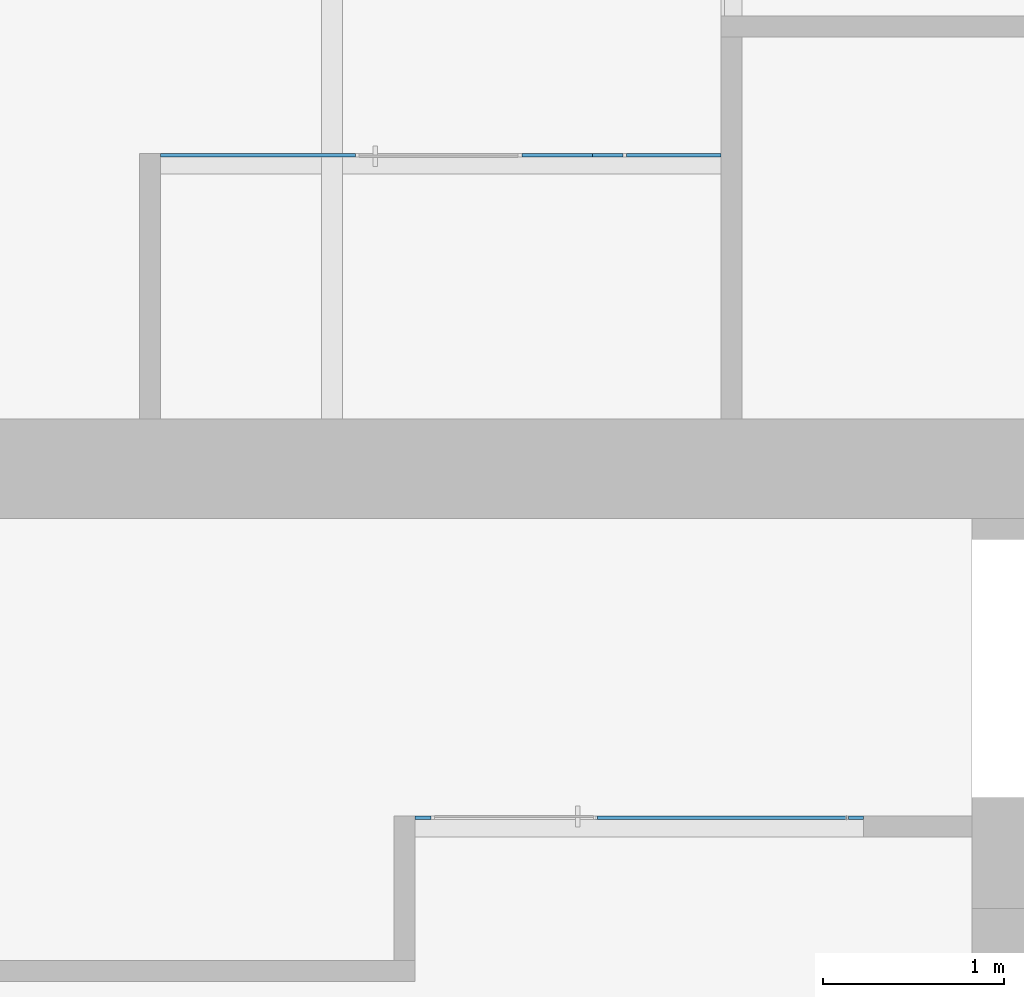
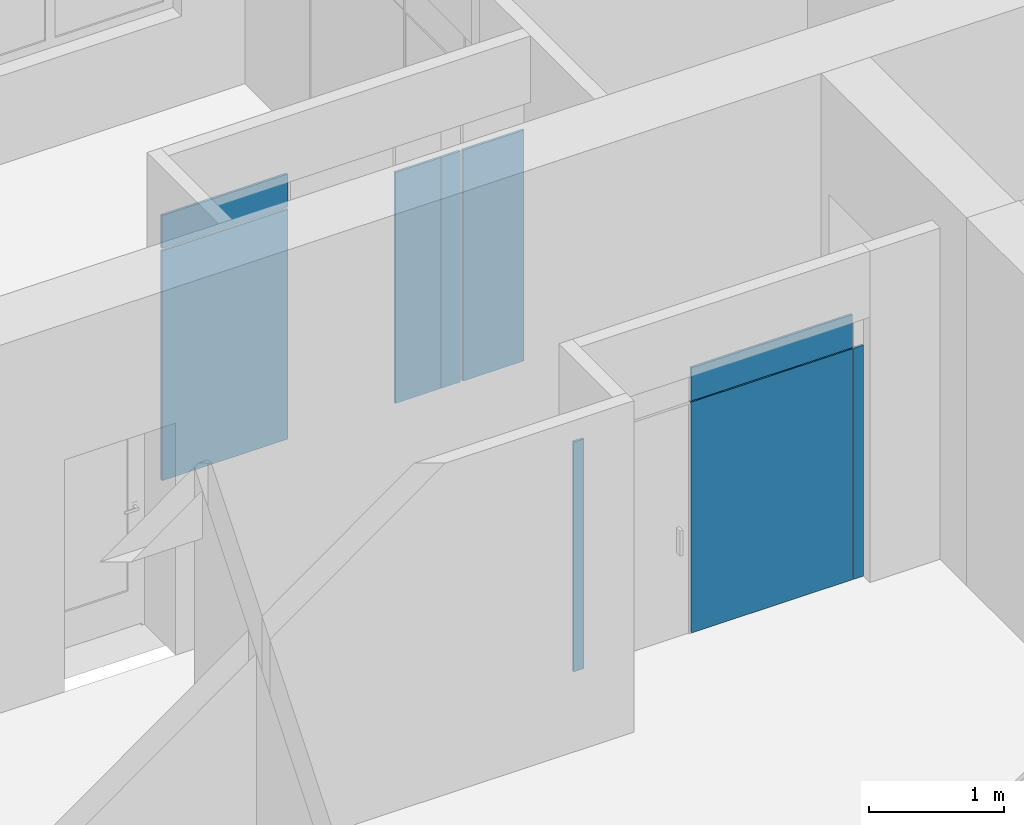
# One storey, part 29 of 73: 10 plates, 2 elements without a shape of their own.
"""IFC2X3 building model written with IfcOpenShell, lengths in millimetres."""

from ifc_helpers import new_model, entity, si_unit, converted_unit, derived_unit, direction, frame, origin, origin_2d_with_axis, place, context, subcontext, project, spatial, rectangle, extrude, source, transform, mapped, material, layer, layer_set, layer_usage, type_object, type_shapes, element, aggregate, save


model = new_model("IFC2X3")

# Units and contexts
model_context = context("Model", 3, precision=0.01, world=origin(), true_north=direction((6.12303176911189e-17, 1.0)))
body_context = subcontext(model_context, "Body", "Model", "MODEL_VIEW")
ifc_project = project(units=[si_unit("LENGTHUNIT", "METRE", prefix="MILLI"), si_unit("AREAUNIT", "SQUARE_METRE"), si_unit("VOLUMEUNIT", "CUBIC_METRE"), converted_unit("PLANEANGLEUNIT", "DEGREE", entity("IfcRatioMeasure", 0.0174532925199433), si_unit("PLANEANGLEUNIT", "RADIAN"), dimensions=[0, 0, 0, 0, 0, 0, 0]), si_unit("MASSUNIT", "GRAM", prefix="KILO"), derived_unit("MASSDENSITYUNIT", [(si_unit("MASSUNIT", "GRAM", prefix="KILO"), 1), (si_unit("LENGTHUNIT", "METRE"), -3)]), si_unit("TIMEUNIT", "SECOND"), si_unit("FREQUENCYUNIT", "HERTZ"), si_unit("THERMODYNAMICTEMPERATUREUNIT", "DEGREE_CELSIUS"), derived_unit("THERMALTRANSMITTANCEUNIT", [(si_unit("MASSUNIT", "GRAM", prefix="KILO"), 1), (si_unit("THERMODYNAMICTEMPERATUREUNIT", "KELVIN"), -1), (si_unit("TIMEUNIT", "SECOND"), -3)]), derived_unit("VOLUMETRICFLOWRATEUNIT", [(si_unit("LENGTHUNIT", "METRE"), 3), (si_unit("TIMEUNIT", "SECOND"), -1)]), si_unit("ELECTRICCURRENTUNIT", "AMPERE"), si_unit("ELECTRICVOLTAGEUNIT", "VOLT"), si_unit("POWERUNIT", "WATT"), si_unit("FORCEUNIT", "NEWTON", prefix="KILO"), si_unit("ILLUMINANCEUNIT", "LUX"), si_unit("LUMINOUSFLUXUNIT", "LUMEN"), si_unit("LUMINOUSINTENSITYUNIT", "CANDELA"), derived_unit("USERDEFINED", [(si_unit("MASSUNIT", "GRAM", prefix="KILO"), -1), (si_unit("LENGTHUNIT", "METRE"), -2), (si_unit("TIMEUNIT", "SECOND"), 3), (si_unit("LUMINOUSFLUXUNIT", "LUMEN"), 1)]), derived_unit("LINEARVELOCITYUNIT", [(si_unit("LENGTHUNIT", "METRE"), 1), (si_unit("TIMEUNIT", "SECOND"), -1)]), si_unit("PRESSUREUNIT", "PASCAL"), derived_unit("USERDEFINED", [(si_unit("LENGTHUNIT", "METRE"), -2), (si_unit("MASSUNIT", "GRAM", prefix="KILO"), 1), (si_unit("TIMEUNIT", "SECOND"), -2)])], contexts=[model_context])

# Site, building, storey
site_placement = place(None, frame((-151.875543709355, 2715.0, 0.0)))
site = spatial("IfcSite", under=ifc_project, at=site_placement, Name="Surface", CompositionType="ELEMENT")
building_placement = place(site_placement, origin())
building = spatial("IfcBuilding", under=site, at=building_placement, CompositionType="ELEMENT")
storey_placement = place(building_placement, frame((0.0, 0.0, 6730.43000000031)))
storey = spatial("IfcBuildingStorey", under=building, at=storey_placement, Name="3 korrus", CompositionType="ELEMENT", Elevation=6730.43000000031)

# Curtain wall, plates
curtain_wall_type_1 = type_object("IfcCurtainWallType", Name="Curtain Wall:Klaassein KLS-20", PredefinedType="NOTDEFINED")
curtain_wall_1_placement = place(storey_placement, frame((0.0, 0.0, -6730.43000000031)))
curtain_wall_1 = element("IfcCurtainWall", 1, at=curtain_wall_1_placement, inside=storey, type_object=curtain_wall_type_1, Name="Curtain Wall:Klaassein KLS-20", ObjectType="Curtain Wall:Klaassein KLS-20")
ifc_material = material(Name="<Unnamed>")
ifc_layer = layer(ifc_material, 20.0)
ifc_layer_set = layer_set([ifc_layer], Name="Curtain Wall:Klaassein KLS-01")
ifc_layer_usage_1 = layer_usage(ifc_layer_set, "AXIS3", "POSITIVE", 0.0)
plate_type_1 = type_object("IfcPlateType", Name="Glazed", PredefinedType="CURTAIN_PANEL", material=ifc_layer_set)
shared_shape_1 = source(origin(), body_context, "Body", "SweptSolid", [
    extrude(rectangle(XDim=20.0, YDim=82.9293200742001, at=origin_2d_with_axis()), frame((0.0, 0.0, 0.0), z_axis=(0.0, 0.0, 1.0), x_axis=(0.0, 1.0, 0.0)), (0.0, 0.0, 1.0), 2090.0),
])
type_shapes(plate_type_1, [shared_shape_1])
plate_1_placement = place(curtain_wall_1_placement, frame((29902.5524993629, 4355.04493399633, 6730.43000000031), z_axis=(0.0, 0.0, 1.0), x_axis=(-1.0, 0.0, 0.0)))
plate_1 = element("IfcPlate", 2, at=plate_1_placement, type_object=plate_type_1, material=ifc_layer_usage_1, Name="System Panel:Glazed", ObjectType="Glazed", context=body_context, shape_type="MappedRepresentation", body=[
    mapped(shared_shape_1, transform((0.0, 0.0, 0.0), scale=1.0)),
])
ifc_layer_usage_2 = layer_usage(ifc_layer_set, "AXIS3", "POSITIVE", 0.0)
plate_type_2 = type_object("IfcPlateType", Name="Glazed", PredefinedType="CURTAIN_PANEL", material=ifc_layer_set)
shared_shape_2 = source(origin(), body_context, "Body", "SweptSolid", [
    extrude(rectangle(XDim=20.0, YDim=1378.52311291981, at=origin_2d_with_axis()), frame((0.0, 0.0, 0.0), z_axis=(0.0, 0.0, 1.0), x_axis=(0.0, 1.0, 0.0)), (0.0, 0.0, 1.0), 2090.0),
])
type_shapes(plate_type_2, [shared_shape_2])
plate_2_placement = place(curtain_wall_1_placement, frame((29160.8262828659, 4355.04493399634, 6730.43000000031), z_axis=(0.0, 0.0, 1.0), x_axis=(-1.0, 0.0, 0.0)))
plate_2 = element("IfcPlate", 3, at=plate_2_placement, type_object=plate_type_2, material=ifc_layer_usage_2, Name="System Panel:Glazed", ObjectType="Glazed", context=body_context, shape_type="MappedRepresentation", body=[
    mapped(shared_shape_2, transform((0.0, 0.0, 0.0), scale=1.0)),
])
ifc_layer_usage_3 = layer_usage(ifc_layer_set, "AXIS3", "POSITIVE", 0.0)
plate_type_3 = type_object("IfcPlateType", Name="Glazed", PredefinedType="CURTAIN_PANEL", material=ifc_layer_set)
shared_shape_3 = source(origin(), body_context, "Body", "SweptSolid", [
    extrude(rectangle(XDim=20.0, YDim=87.9999999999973, at=origin_2d_with_axis()), frame((0.0, 0.0, 0.0), z_axis=(0.0, 0.0, 1.0), x_axis=(0.0, 1.0, 0.0)), (0.0, 0.0, 1.0), 2080.0),
])
type_shapes(plate_type_3, [shared_shape_3])
plate_3_placement = place(curtain_wall_1_placement, frame((27507.564726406, 4355.04493399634, 6730.43000000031), z_axis=(0.0, 0.0, 1.0), x_axis=(-1.0, 0.0, 0.0)))
plate_3 = element("IfcPlate", 4, at=plate_3_placement, type_object=plate_type_3, material=ifc_layer_usage_3, Name="System Panel:Glazed", ObjectType="Glazed", context=body_context, shape_type="MappedRepresentation", body=[
    mapped(shared_shape_3, transform((0.0, 0.0, 0.0), scale=1.0)),
])
ifc_layer_usage_4 = layer_usage(ifc_layer_set, "AXIS3", "POSITIVE", 0.0)
plate_type_4 = type_object("IfcPlateType", Name="Glazed", PredefinedType="CURTAIN_PANEL", material=ifc_layer_set)
shared_shape_4 = source(origin(), body_context, "Body", "SweptSolid", [
    extrude(rectangle(XDim=20.0, YDim=1388.52311291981, at=origin_2d_with_axis()), frame((0.0, 0.0, 0.0), z_axis=(0.0, 0.0, 1.0), x_axis=(0.0, 1.0, 0.0)), (0.0, 0.0, 1.0), 9.99999999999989),
])
type_shapes(plate_type_4, [shared_shape_4])
plate_4_placement = place(curtain_wall_1_placement, frame((29155.8262828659, 4355.04493399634, 8820.43000000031), z_axis=(0.0, 0.0, 1.0), x_axis=(-1.0, 0.0, 0.0)))
plate_4 = element("IfcPlate", 5, at=plate_4_placement, type_object=plate_type_4, material=ifc_layer_usage_4, Name="System Panel:Glazed", ObjectType="Glazed", context=body_context, shape_type="MappedRepresentation", body=[
    mapped(shared_shape_4, transform((0.0, 0.0, 0.0), scale=1.0)),
])
ifc_layer_usage_5 = layer_usage(ifc_layer_set, "AXIS3", "POSITIVE", 0.0)
plate_type_5 = type_object("IfcPlateType", Name="Glazed", PredefinedType="CURTAIN_PANEL", material=ifc_layer_set)
shared_shape_5 = source(origin(), body_context, "Body", "SweptSolid", [
    extrude(rectangle(XDim=20.0, YDim=1378.52311291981, at=origin_2d_with_axis()), frame((0.0, 0.0, 0.0), z_axis=(0.0, 0.0, 1.0), x_axis=(0.0, 1.0, 0.0)), (0.0, 0.0, 1.0), 299.999999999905),
])
type_shapes(plate_type_5, [shared_shape_5])
plate_5_placement = place(curtain_wall_1_placement, frame((29160.8262828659, 4355.04493399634, 8830.43000000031), z_axis=(0.0, 0.0, 1.0), x_axis=(-1.0, 0.0, 0.0)))
plate_5 = element("IfcPlate", 6, at=plate_5_placement, type_object=plate_type_5, material=ifc_layer_usage_5, Name="System Panel:Glazed", ObjectType="Glazed", context=body_context, shape_type="MappedRepresentation", body=[
    mapped(shared_shape_5, transform((0.0, 0.0, 0.0), scale=1.0)),
])
aggregate(curtain_wall_1, [plate_1, plate_2, plate_3, plate_4, plate_5])

curtain_wall_type_2 = type_object("IfcCurtainWallType", Name="Curtain Wall:Klaassein KLS-21", PredefinedType="NOTDEFINED")
curtain_wall_2_placement = place(storey_placement, frame((0.0, 0.0, -6730.43000000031)))
curtain_wall_2 = element("IfcCurtainWall", 7, at=curtain_wall_2_placement, inside=storey, type_object=curtain_wall_type_2, Name="Curtain Wall:Klaassein KLS-21", ObjectType="Curtain Wall:Klaassein KLS-21")
ifc_layer_usage_6 = layer_usage(ifc_layer_set, "AXIS3", "POSITIVE", 0.0)
plate_type_6 = type_object("IfcPlateType", Name="Glazed", PredefinedType="CURTAIN_PANEL", material=ifc_layer_set)
shared_shape_6 = source(origin(), body_context, "Body", "SweptSolid", [
    extrude(rectangle(XDim=20.0, YDim=522.547567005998, at=origin_2d_with_axis()), frame((0.0, 0.0, 0.0), z_axis=(0.0, 0.0, 1.0), x_axis=(0.0, 1.0, 0.0)), (0.0, 0.0, 1.0), 2090.0),
])
type_shapes(plate_type_6, [shared_shape_6])
plate_6_placement = place(curtain_wall_2_placement, frame((28894.3424846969, 8021.06145812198, 6730.43000000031), z_axis=(0.0, 0.0, 1.0), x_axis=(-1.0, 0.0, 0.0)))
plate_6 = element("IfcPlate", 8, at=plate_6_placement, type_object=plate_type_6, material=ifc_layer_usage_6, Name="System Panel:Glazed", ObjectType="Glazed", context=body_context, shape_type="MappedRepresentation", body=[
    mapped(shared_shape_6, transform((0.0, 0.0, 0.0), scale=1.0)),
])
ifc_layer_usage_7 = layer_usage(ifc_layer_set, "AXIS3", "POSITIVE", 0.0)
plate_type_7 = type_object("IfcPlateType", Name="Glazed", PredefinedType="CURTAIN_PANEL", material=ifc_layer_set)
shared_shape_7 = source(origin(), body_context, "Body", "SweptSolid", [
    extrude(rectangle(XDim=20.0, YDim=168.929320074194, at=origin_2d_with_axis()), frame((0.0, 0.0, 0.0), z_axis=(0.0, 0.0, 1.0), x_axis=(0.0, 1.0, 0.0)), (0.0, 0.0, 1.0), 2090.0),
])
type_shapes(plate_type_7, [shared_shape_7])
plate_7_placement = place(curtain_wall_2_placement, frame((28528.6040411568, 8021.06145812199, 6730.43000000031), z_axis=(0.0, 0.0, 1.0), x_axis=(-1.0, 0.0, 0.0)))
plate_7 = element("IfcPlate", 9, at=plate_7_placement, type_object=plate_type_7, material=ifc_layer_usage_7, Name="System Panel:Glazed", ObjectType="Glazed", context=body_context, shape_type="MappedRepresentation", body=[
    mapped(shared_shape_7, transform((0.0, 0.0, 0.0), scale=1.0)),
])
ifc_layer_usage_8 = layer_usage(ifc_layer_set, "AXIS3", "POSITIVE", 0.0)
plate_type_8 = type_object("IfcPlateType", Name="Glazed", PredefinedType="CURTAIN_PANEL", material=ifc_layer_set)
shared_shape_8 = source(origin(), body_context, "Body", "SweptSolid", [
    extrude(rectangle(XDim=20.0, YDim=389.999999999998, at=origin_2d_with_axis()), frame((0.0, 0.0, 0.0), z_axis=(0.0, 0.0, 1.0), x_axis=(0.0, 1.0, 0.0)), (0.0, 0.0, 1.0), 2090.0),
])
type_shapes(plate_type_8, [shared_shape_8])
plate_8_placement = place(curtain_wall_2_placement, frame((28249.1393811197, 8021.06145812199, 6730.43000000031), z_axis=(0.0, 0.0, 1.0), x_axis=(-1.0, 0.0, 0.0)))
plate_8 = element("IfcPlate", 10, at=plate_8_placement, type_object=plate_type_8, material=ifc_layer_usage_8, Name="System Panel:Glazed", ObjectType="Glazed", context=body_context, shape_type="MappedRepresentation", body=[
    mapped(shared_shape_8, transform((0.0, 0.0, 0.0), scale=1.0)),
])
ifc_layer_usage_9 = layer_usage(ifc_layer_set, "AXIS3", "POSITIVE", 0.0)
plate_type_9 = type_object("IfcPlateType", Name="Glazed", PredefinedType="CURTAIN_PANEL", material=ifc_layer_set)
shared_shape_9 = source(origin(), body_context, "Body", "SweptSolid", [
    extrude(rectangle(XDim=20.0, YDim=1078.52311291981, at=origin_2d_with_axis()), frame((0.0, 0.0, 0.0), z_axis=(0.0, 0.0, 1.0), x_axis=(0.0, 1.0, 0.0)), (0.0, 0.0, 1.0), 2080.0),
])
type_shapes(plate_type_9, [shared_shape_9])
plate_9_placement = place(curtain_wall_2_placement, frame((26594.8778246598, 8021.06145812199, 6730.43000000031), z_axis=(0.0, 0.0, 1.0), x_axis=(-1.0, 0.0, 0.0)))
plate_9 = element("IfcPlate", 11, at=plate_9_placement, type_object=plate_type_9, material=ifc_layer_usage_9, Name="System Panel:Glazed", ObjectType="Glazed", context=body_context, shape_type="MappedRepresentation", body=[
    mapped(shared_shape_9, transform((0.0, 0.0, 0.0), scale=1.0)),
])
ifc_layer_usage_10 = layer_usage(ifc_layer_set, "AXIS3", "POSITIVE", 0.0)
plate_type_10 = type_object("IfcPlateType", Name="Glazed", PredefinedType="CURTAIN_PANEL", material=ifc_layer_set)
shared_shape_10 = source(origin(), body_context, "Body", "SweptSolid", [
    extrude(rectangle(XDim=20.0, YDim=1078.52311291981, at=origin_2d_with_axis()), frame((0.0, 0.0, 0.0), z_axis=(0.0, 0.0, 1.0), x_axis=(0.0, 1.0, 0.0)), (0.0, 0.0, 1.0), 299.999999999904),
])
type_shapes(plate_type_10, [shared_shape_10])
plate_10_placement = place(curtain_wall_2_placement, frame((26594.8778246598, 8021.06145812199, 8830.43000000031), z_axis=(0.0, 0.0, 1.0), x_axis=(-1.0, 0.0, 0.0)))
plate_10 = element("IfcPlate", 12, at=plate_10_placement, type_object=plate_type_10, material=ifc_layer_usage_10, Name="System Panel:Glazed", ObjectType="Glazed", context=body_context, shape_type="MappedRepresentation", body=[
    mapped(shared_shape_10, transform((0.0, 0.0, 0.0), scale=1.0)),
])
aggregate(curtain_wall_2, [plate_6, plate_7, plate_8, plate_9, plate_10])

save(model, "model.ifc")
